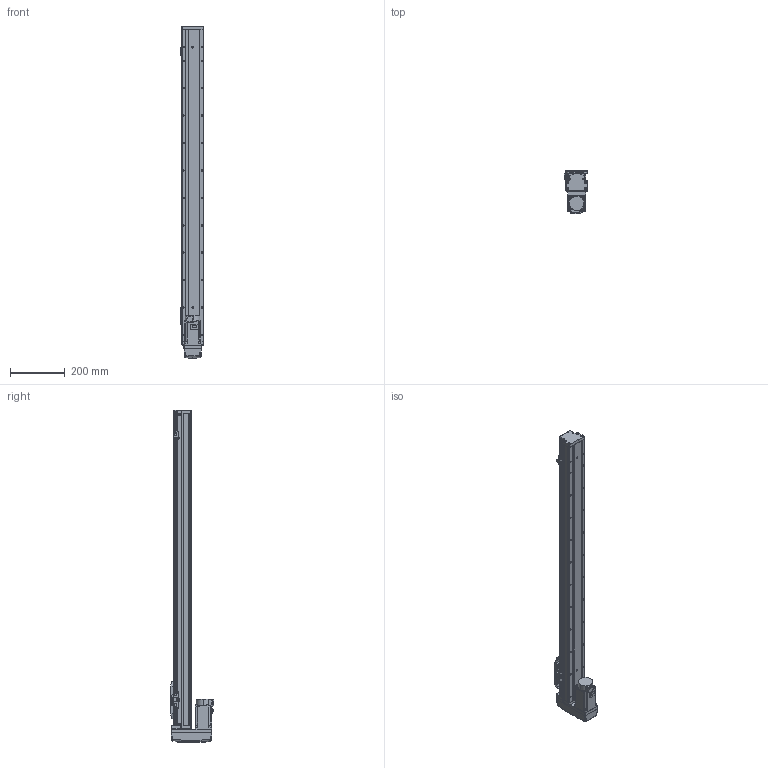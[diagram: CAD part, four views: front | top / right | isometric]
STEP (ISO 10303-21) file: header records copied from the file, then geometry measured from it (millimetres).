
FILE_DESCRIPTION (( 'STEP AP203' ), '1' );
FILE_NAME ('GTH8-950-BM-M20-C4.step', '2022-09-23T01:07:06', ( '微软用户' ), ( '微软中国' ), 'SwSTEP 2.0', 'SolidWorks 2020', '' );
FILE_SCHEMA (( 'CONFIG_CONTROL_DESIGN' ));
Length unit declared in the file: millimetre
Products named in the file (18): GTH80-022; GBT 70.1-M4×16; CTHA86-015-1_CTHA86-015-2; GTH80-001_950; GTH80-028; CTHA86-033_M40B; GTH80-003; GTH50-024; GTH8-950-BM-M20-C4; GTH80-004; GTH50-023; GTH80-006; GBT96.1-2002 3×0.8; GTH80-013; BTH-M3X5X6; GBT 70.3-M3℅6; GBT 70.1-M3℅6; hg-kn43j_-s100_
Assembly tree (57 placements, depth 2):
  GTH8-950-BM-M20-C4
    GTH80-001_950
    GTH80-003
    GTH80-004
    GTH80-006
    GTH80-013
    GBT 70.3-M3℅6  x4
    GTH80-022
    GBT 70.1-M3℅6  x14
    GBT 70.1-M4×16  x8
    GTH80-028  x2
    GTH50-024  x3
    GTH50-023  x3
    GBT96.1-2002 3×0.8  x6
    BTH-M3X5X6  x8
    hg-kn43j_-s100_
    CTHA86-015-1_CTHA86-015-2
    CTHA86-033_M40B
Bounding box: 86.9 x 160.3 x 1211 mm (x, y, z)
Volume: 5923248.1 mm3; surface area: 581000 mm2
Topology: 59 solids, 59 shells, 2256 faces, 5223 edges, 3203 vertices
Faces by surface type: plane 1187, cylinder 627, cone 260, torus 166, bspline 8, sphere 8
Entity records: 41514 total; most frequent: CARTESIAN_POINT 7289, DIRECTION 6761, ORIENTED_EDGE 6264, EDGE_CURVE 3132, AXIS2_PLACEMENT_3D 2373, VECTOR 2015, LINE 2015, VERTEX_POINT 1978
